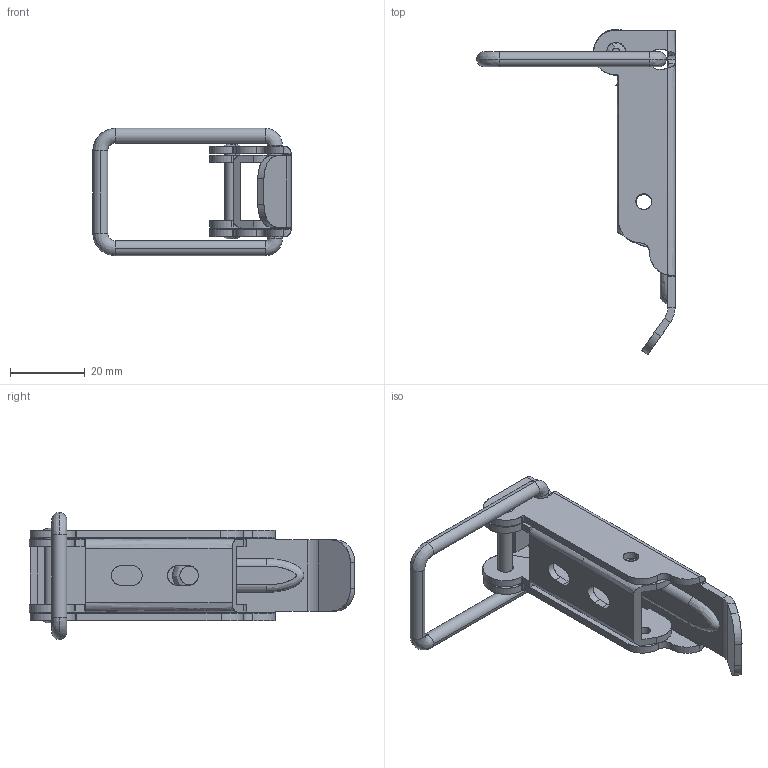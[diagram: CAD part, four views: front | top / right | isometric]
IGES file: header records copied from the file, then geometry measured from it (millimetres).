
Start section: SolidWorks IGES file using analytic representation for surfaces
Global section: file name: C:\Users\cbrechard\Desktop\GO 3029\GO 3029.IGS; native system: SolidWorks 2008; preprocessor: SolidWorks 2008; author: cbrechard; date: 131022.115840; units: millimetre
Bounding box: 52.98 x 86.86 x 34 mm (x, y, z)
Surface area: 14802.5 mm2 (no closed solid volume)
Topology: 0 solids, 0 shells, 197 faces, 2805 edges, 2801 vertices
Faces by surface type: revolution 109, bspline 88
